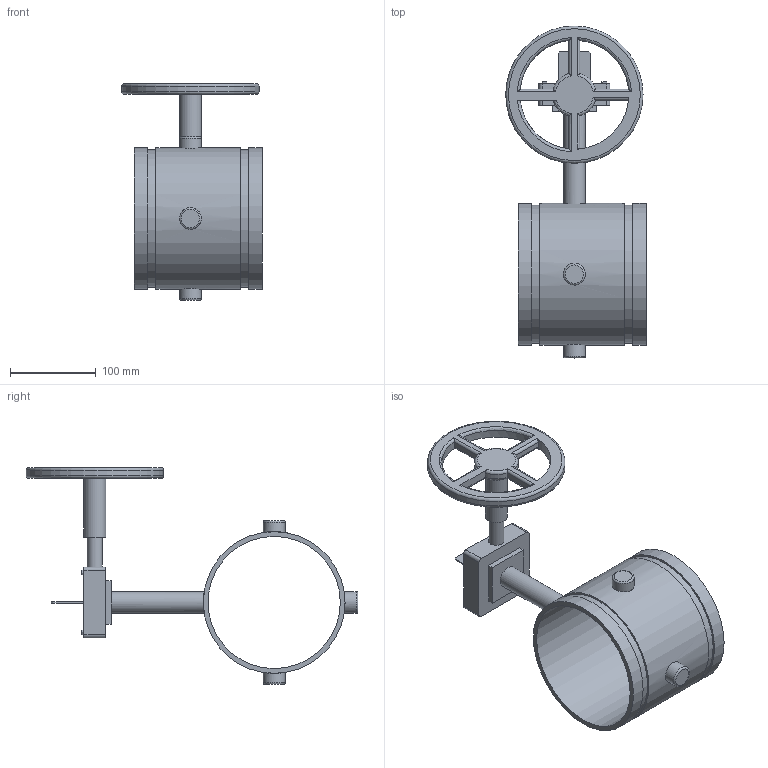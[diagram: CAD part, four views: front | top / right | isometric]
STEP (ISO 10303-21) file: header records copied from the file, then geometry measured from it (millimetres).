
FILE_DESCRIPTION(/* description */ ('VIC FIRELOCK BUTTERFLY VALVE SERIES 707-C W/ WEATHERPROOF ACTUATOR FOR 300 PSI','CAx-IF Rec.Pracs.---Representation and Presentation of Product Manufacturing Information (PMI)---4.0---2014-10-13'),/* implementation_level */ '2;1');
FILE_NAME(/* name */ 'C:\Users\Vjadhav\AppData\Roaming\Autodesk\ApplicationPlugins\Back Up\Victaulic_FP-FireLock_Valve Butterfly_Series 707C (OGS)-Closed\Victaulic_FP-FireLock_Valve Butterfly_Series 707C (OGS)-Closed_06.0 (165.1) (150).stp',/* time_stamp */ '2020-07-20T15:15:03+06:00',/* author */ ('kkamble'),/* organization */ ('Victaulic'),/* preprocessor_version */ 'ST-DEVELOPER v17.2',/* originating_system */ 'Autodesk Inventor 2019',/* authorisation */ '');
FILE_SCHEMA (('AP242_MANAGED_MODEL_BASED_3D_ENGINEERING_MIM_LF { 1 0 10303 442 1 1 4 }'));
Length unit declared in the file: inch
Products named in the file (1): 707C-06.0 (165.1)
Bounding box: 163.83 x 386.59 x 252.73 mm (x, y, z)
Volume: 843001.7 mm3; surface area: 239529.8 mm2
Topology: 1 solids, 1 shells, 122 faces, 312 edges, 209 vertices
Faces by surface type: plane 66, cylinder 40, torus 16
Full cylindrical faces by diameter (mm): 17.78 x1, 25.4 x5, 154.051 x1, 160.02 x1, 160.782 x2, 165.1 x3
Entity records: 4445 total; most frequent: CARTESIAN_POINT 1165, DIRECTION 637, ORIENTED_EDGE 624, EDGE_CURVE 312, AXIS2_PLACEMENT_3D 229, VERTEX_POINT 209, LINE 179, VECTOR 179
